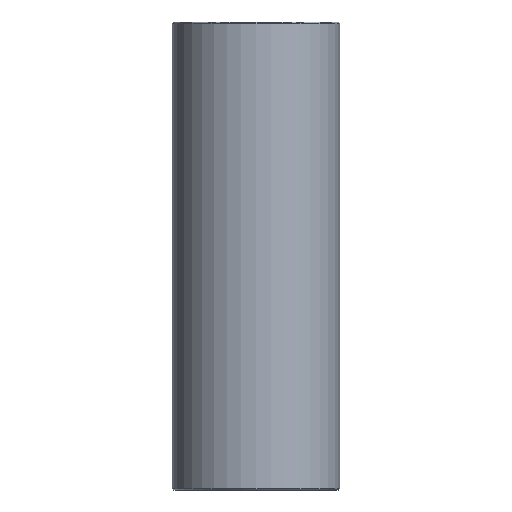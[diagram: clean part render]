
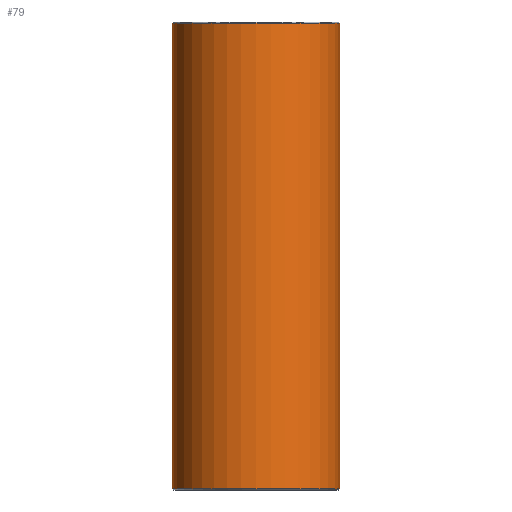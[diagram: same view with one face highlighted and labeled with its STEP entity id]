
A CAD part, front view. The second image highlights one B-rep face of the part: STEP entity #79.
In plain terms, the highlighted cylindrical face has radius 12.5 mm (diameter 25 mm), a full revolution.
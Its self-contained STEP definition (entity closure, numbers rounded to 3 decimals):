
#79=ADVANCED_FACE('',(#96,#97),#98,.T.);
#96=FACE_OUTER_BOUND('',#120,.T.);
#97=FACE_OUTER_BOUND('',#121,.T.);
#98=CYLINDRICAL_SURFACE('',#122,12.5);
#120=EDGE_LOOP('',(#152));
#121=EDGE_LOOP('',(#153));
#122=AXIS2_PLACEMENT_3D('',#154,#155,#156);
#152=ORIENTED_EDGE('',*,*,#178,.T.);
#153=ORIENTED_EDGE('',*,*,#177,.T.);
#154=CARTESIAN_POINT('',(0.0,0.0,70.0));
#155=DIRECTION('',(0.0,0.0,-1.0));
#156=DIRECTION('',(-1.0,0.0,0.0));
#177=EDGE_CURVE('',#190,#190,#191,.T.);
#178=EDGE_CURVE('',#192,#192,#193,.F.);
#190=VERTEX_POINT('',#206);
#191=CIRCLE('',#207,12.5);
#192=VERTEX_POINT('',#208);
#193=CIRCLE('',#209,12.5);
#206=CARTESIAN_POINT('',(12.5,0.0,0.2));
#207=AXIS2_PLACEMENT_3D('',#227,#228,#229);
#208=CARTESIAN_POINT('',(12.5,0.,69.8));
#209=AXIS2_PLACEMENT_3D('',#230,#231,#232);
#227=CARTESIAN_POINT('',(0.0,0.0,0.2));
#228=DIRECTION('',(0.0,0.0,1.0));
#229=DIRECTION('',(1.0,0.0,0.0));
#230=CARTESIAN_POINT('',(0.0,0.0,69.8));
#231=DIRECTION('',(0.0,0.0,1.0));
#232=DIRECTION('',(1.0,0.0,0.0));
